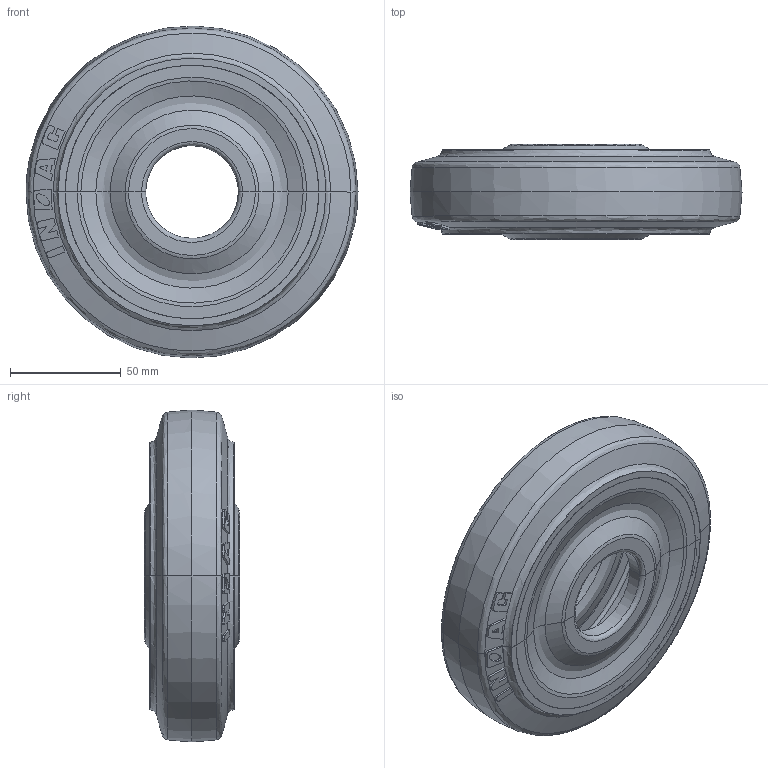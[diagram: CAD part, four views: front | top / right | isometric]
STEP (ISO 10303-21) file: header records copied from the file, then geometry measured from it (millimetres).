
FILE_DESCRIPTION (( 'STEP AP214' ), '1' );
FILE_NAME ('GR-150W.STEP', '2022-07-12T02:39:51', ( '' ), ( '' ), 'SwSTEP 2.0', 'SolidWorks 2010', '' );
FILE_SCHEMA (( 'AUTOMOTIVE_DESIGN' ));
Length unit declared in the file: millimetre
Products named in the file (4): GR-150W-12; GR-150W-11; GR-150W-10; GR-150W
Assembly tree (3 placements, depth 2):
  GR-150W
    GR-150W-12
    GR-150W-11
    GR-150W-10
Bounding box: 150 x 43 x 149.99 mm (x, y, z)
Volume: 229949.2 mm3; surface area: 126047.9 mm2
Topology: 3 solids, 3 shells, 242 faces, 565 edges, 329 vertices
Faces by surface type: bspline 201, plane 41
Entity records: 31935 total; most frequent: CARTESIAN_POINT 27961, ORIENTED_EDGE 1130, EDGE_CURVE 565, B_SPLINE_CURVE_WITH_KNOTS 506, VERTEX_POINT 329, EDGE_LOOP 248, FACE_OUTER_BOUND 242, ADVANCED_FACE 242
